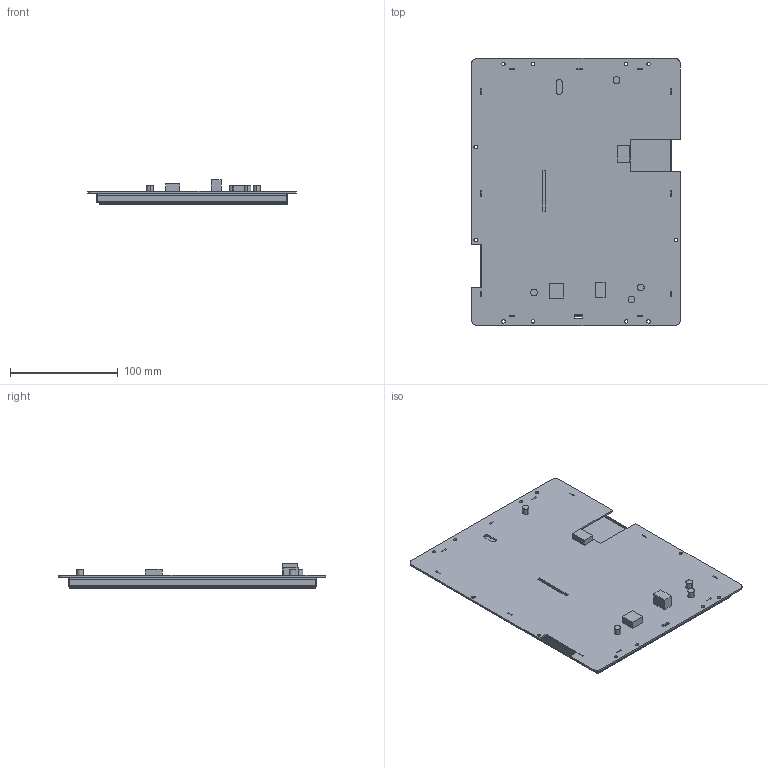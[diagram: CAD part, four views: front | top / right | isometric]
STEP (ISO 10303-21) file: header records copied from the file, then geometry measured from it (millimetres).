
FILE_DESCRIPTION((''),'2;1');
FILE_NAME('HDW070-008L','2022-04-14T',('Administrator'),(''),'PRO/ENGINEER BY PARAMETRIC TECHNOLOGY CORPORATION, 2011310','PRO/ENGINEER BY PARAMETRIC TECHNOLOGY CORPORATION, 2011310','');
FILE_SCHEMA(('CONFIG_CONTROL_DESIGN','SHAPE_APPEARANCE_LAYERS_GROUPS'));
Length unit declared in the file: millimetre
Products named in the file (1): HDW070-008L
Bounding box: 193.68 x 247.78 x 23.07 mm (x, y, z)
Volume: 381449.7 mm3; surface area: 267770.7 mm2
Topology: 1 solids, 1 shells, 216 faces, 658 edges, 420 vertices
Faces by surface type: plane 174, cylinder 42
Entity records: 8570 total; most frequent: ORIENTED_EDGE 1316, CARTESIAN_POINT 1302, DIRECTION 1170, EDGE_CURVE 658, VECTOR 574, LINE 574, VERTEX_POINT 420, AXIS2_PLACEMENT_3D 298
